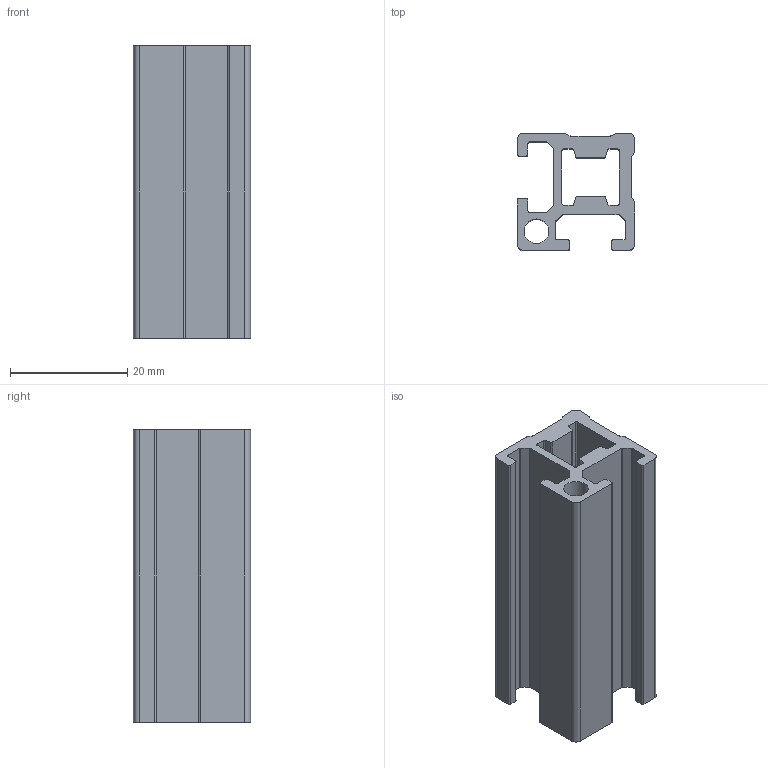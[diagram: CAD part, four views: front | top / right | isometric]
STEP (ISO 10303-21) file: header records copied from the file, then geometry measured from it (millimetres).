
FILE_DESCRIPTION(('STEP AP214'),'1');
FILE_NAME('F20C-.stp','2018-07-24T10:17:53',(' '),(' '),'Spatial InterOp 3D',' ',' ');
FILE_SCHEMA(('automotive_design'));
Length unit declared in the file: millimetre
Products named in the file (1): F20C-
Bounding box: 20 x 20 x 50 mm (x, y, z)
Volume: 8551.1 mm3; surface area: 9035.6 mm2
Topology: 1 solids, 1 shells, 91 faces, 267 edges, 178 vertices
Faces by surface type: plane 46, cylinder 45
Full cylindrical faces by diameter (mm): 4.2 x1
Entity records: 3798 total; most frequent: DIRECTION 540, CARTESIAN_POINT 536, ORIENTED_EDGE 532, EDGE_CURVE 266, AXIS2_PLACEMENT_3D 182, VERTEX_POINT 178, LINE 176, VECTOR 176
